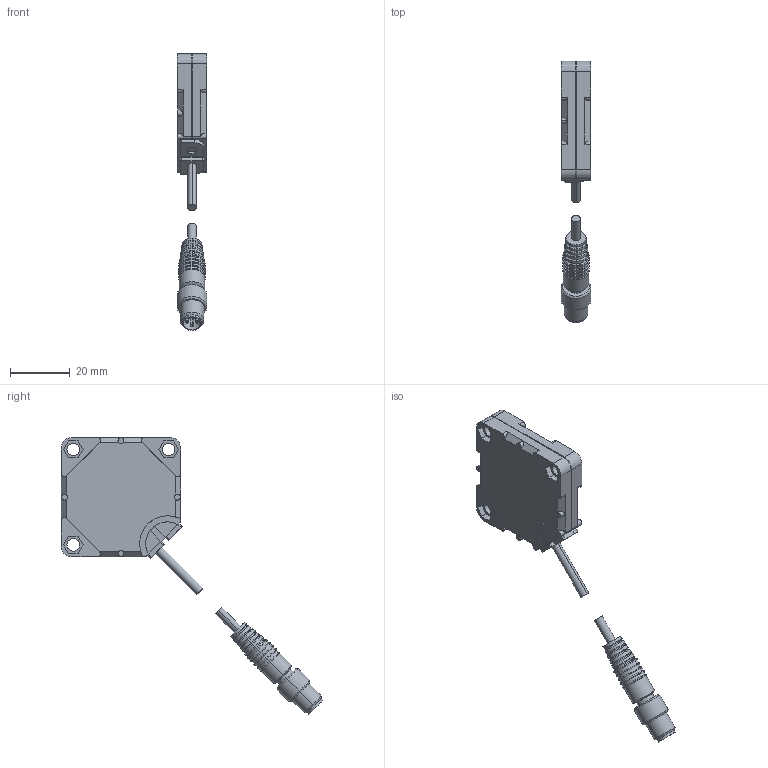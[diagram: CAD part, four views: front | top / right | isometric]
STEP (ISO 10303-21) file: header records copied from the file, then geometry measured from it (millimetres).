
FILE_DESCRIPTION( ( '' ), '1' );
FILE_NAME( 'F:/E-Medien/CADENAS/Exporte/48020_00.stp', '2012-11-20T09:58:25', ( '' ), ( '' ), ' ', ' ', ' ' );
FILE_SCHEMA( ( 'automotive_design' ) );
Length unit declared in the file: millimetre
Products named in the file (2): 1; 2
Bounding box: 10 x 87.63 x 92.87 mm (x, y, z)
Volume: 16306.9 mm3; surface area: 6640.6 mm2
Topology: 2 solids, 2 shells, 294 faces, 753 edges, 479 vertices
Faces by surface type: plane 138, cylinder 84, torus 40, cone 26, sphere 6
Entity records: 17405 total; most frequent: DIRECTION 1662, STYLED_ITEM 1516, PRESENTATION_STYLE_ASSIGNMENT 1516, CARTESIAN_POINT 1516, COLOUR_RGB 1516, ORIENTED_EDGE 1482, EDGE_CURVE 741, CURVE_STYLE 741
